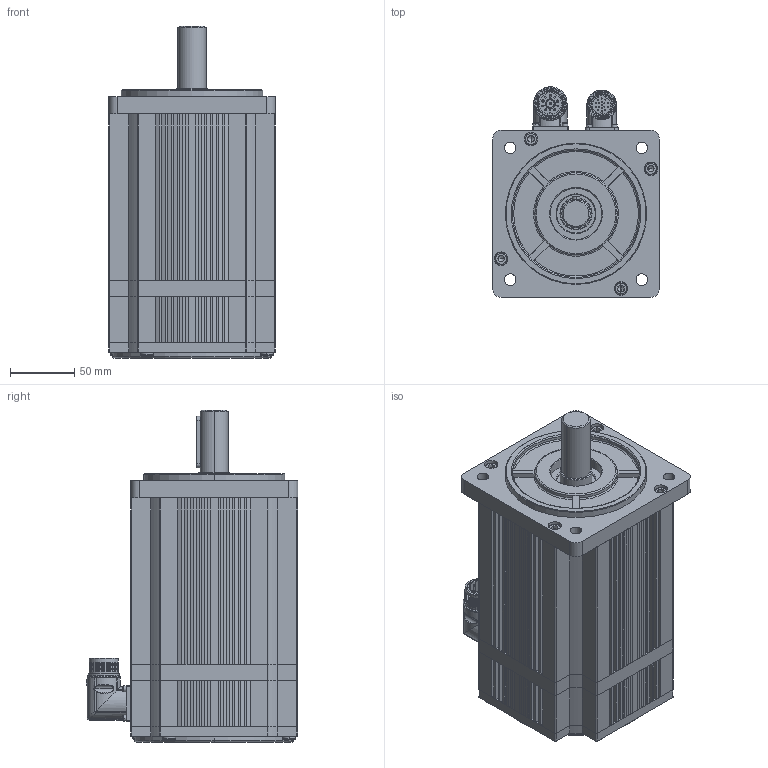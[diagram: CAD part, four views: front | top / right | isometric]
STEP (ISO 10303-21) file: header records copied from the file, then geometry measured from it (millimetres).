
FILE_DESCRIPTION (( 'STEP AP214' ), '1' );
FILE_NAME ('SMC130D-0150-10MAK-5LSP.STEP', '2022-09-14T05:45:20', ( '' ), ( '' ), 'SwSTEP 2.0', 'SolidWorks 2018', '' );
FILE_SCHEMA (( 'AUTOMOTIVE_DESIGN' ));
Length unit declared in the file: millimetre
Products named in the file (12): 郋弊莉陓瘍菁釱; 儂褲; 綴傷裔; hexagon socket head cap screws gb_GB_FASTENER_SCREWS_HSHCS M2.5X8-N; hexagon socket head cap screws gb_GB_FASTENER_SCREWS_HSHCS M6X55-N; 鎢攫欶綴裔; 郋弊莉萇埭菁釱; hexagon socket head cap screws gb_GB_FASTENER_SCREWS_HSHCS M6X20-N; SMC130D-0150-10MAK-5LSP; 鎢攫欶褲极; ヶ傷裔; ぱ籵A倰瑩
Assembly tree (24 placements, depth 2):
  SMC130D-0150-10MAK-5LSP
    ヶ傷裔
    儂褲
    綴傷裔
    鎢攫欶褲极
    鎢攫欶綴裔
    郋弊莉萇埭菁釱
    郋弊莉陓瘍菁釱
    hexagon socket head cap screws gb_GB_FASTENER_SCREWS_HSHCS M2.5X8-N  x8
    hexagon socket head cap screws gb_GB_FASTENER_SCREWS_HSHCS M6X55-N  x4
    ぱ籵A倰瑩
    hexagon socket head cap screws gb_GB_FASTENER_SCREWS_HSHCS M6X20-N  x4
Bounding box: 130 x 164.5 x 258.5 mm (x, y, z)
Volume: 3074272.1 mm3; surface area: 352252.7 mm2
Topology: 48 solids, 48 shells, 1859 faces, 4699 edges, 2975 vertices
Faces by surface type: plane 842, cylinder 778, cone 90, torus 90, sphere 46, bspline 13
Entity records: 59096 total; most frequent: CARTESIAN_POINT 10417, DIRECTION 8403, ORIENTED_EDGE 7714, EDGE_CURVE 3857, AXIS2_PLACEMENT_3D 3146, VERTEX_POINT 2500, LINE 2111, VECTOR 2111
